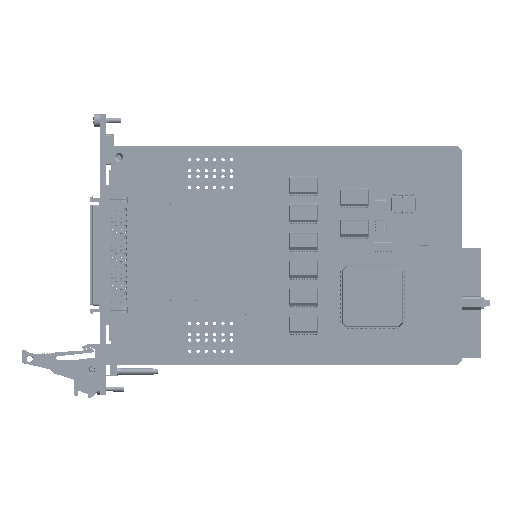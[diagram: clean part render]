
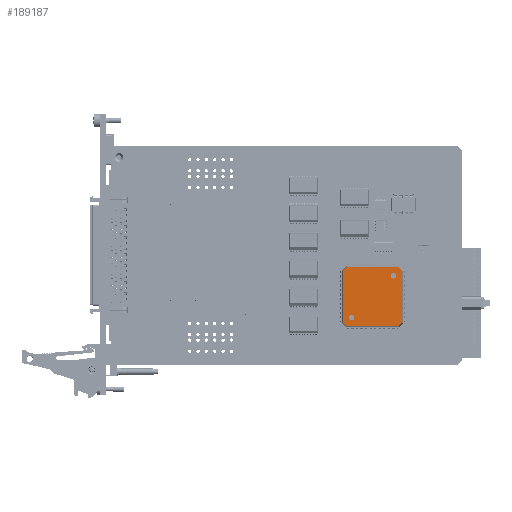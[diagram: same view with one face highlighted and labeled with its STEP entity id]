
A CAD part, top view. The second image highlights one B-rep face of the part: STEP entity #189187.
In plain terms, the highlighted planar face has unit normal (0, 0, 1) as drawn and (0, 1, 0) by its records, which use the part's own axes.
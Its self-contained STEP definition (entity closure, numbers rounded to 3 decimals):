
#4002 = EDGE_CURVE ( 'NONE', #305686, #128413, #197833, .T. ) ;
#13152 = ORIENTED_EDGE ( 'NONE', *, *, #44391, .T. ) ;
#16692 = DIRECTION ( 'NONE',  ( 0., 0., 1. ) ) ;
#17006 = CARTESIAN_POINT ( 'NONE',  ( -11.678, 1.7, -13.678 ) ) ;
#19780 = DIRECTION ( 'NONE',  ( 0., 0., -1. ) ) ;
#21106 = LINE ( 'NONE', #396002, #188096 ) ;
#21950 = CARTESIAN_POINT ( 'NONE',  ( -11.678, 1.7, 13.678 ) ) ;
#22378 = CARTESIAN_POINT ( 'NONE',  ( 11.678, 1.7, -13.678 ) ) ;
#24101 = EDGE_CURVE ( 'NONE', #114825, #245106, #248828, .T. ) ;
#34202 = FACE_BOUND ( 'NONE', #70608, .T. ) ;
#43430 = CARTESIAN_POINT ( 'NONE',  ( -9.544, 1.7, 9.544 ) ) ;
#44010 = CARTESIAN_POINT ( 'NONE',  ( -9.544, 1.7, 10.793 ) ) ;
#44391 = EDGE_CURVE ( 'NONE', #282520, #71726, #86366, .T. ) ;
#48696 = CARTESIAN_POINT ( 'NONE',  ( 13.544, 1.7, 12. ) ) ;
#54018 = CARTESIAN_POINT ( 'NONE',  ( -11.811, 1.7, 13.544 ) ) ;
#54174 = DIRECTION ( 'NONE',  ( 0.707, 0., 0.707 ) ) ;
#57153 = EDGE_LOOP ( 'NONE', ( #322566, #251700, #121603, #290556, #168426, #405721, #380274, #363011 ) ) ;
#58931 = CARTESIAN_POINT ( 'NONE',  ( 9.544, 1.7, -10.794 ) ) ;
#70608 = EDGE_LOOP ( 'NONE', ( #337781, #13152 ) ) ;
#71307 = DIRECTION ( 'NONE',  ( 0., -1., 0. ) ) ;
#71726 = VERTEX_POINT ( 'NONE', #44010 ) ;
#73186 = VERTEX_POINT ( 'NONE', #336920 ) ;
#75641 = VERTEX_POINT ( 'NONE', #371215 ) ;
#76399 = AXIS2_PLACEMENT_3D ( 'NONE', #419153, #219567, #19780 ) ;
#77060 = DIRECTION ( 'NONE',  ( 0., 0., -1. ) ) ;
#77497 = EDGE_CURVE ( 'NONE', #75641, #305686, #223491, .T. ) ;
#82228 = DIRECTION ( 'NONE',  ( 0., 0., -1. ) ) ;
#86366 = CIRCLE ( 'NONE', #254499, 1.249 ) ;
#86559 = CARTESIAN_POINT ( 'NONE',  ( -9.544, 1.7, 9.544 ) ) ;
#90754 = DIRECTION ( 'NONE',  ( 0., 1., 0. ) ) ;
#95505 = VECTOR ( 'NONE', #255810, 1000. ) ;
#102692 = LINE ( 'NONE', #358851, #279932 ) ;
#106559 = EDGE_CURVE ( 'NONE', #372449, #73186, #371806, .T. ) ;
#107917 = AXIS2_PLACEMENT_3D ( 'NONE', #290348, #90754, #323937 ) ;
#114825 = VERTEX_POINT ( 'NONE', #208796 ) ;
#118986 = VECTOR ( 'NONE', #250435, 1000. ) ;
#120024 = DIRECTION ( 'NONE',  ( 0., 0., -1. ) ) ;
#121603 = ORIENTED_EDGE ( 'NONE', *, *, #263628, .T. ) ;
#128413 = VERTEX_POINT ( 'NONE', #419512 ) ;
#138297 = DIRECTION ( 'NONE',  ( 1., 0., 0. ) ) ;
#139592 = EDGE_CURVE ( 'NONE', #71726, #282520, #345399, .T. ) ;
#154879 = PLANE ( 'NONE',  #107917 ) ;
#159133 = DIRECTION ( 'NONE',  ( -1., 0., 0. ) ) ;
#168426 = ORIENTED_EDGE ( 'NONE', *, *, #77497, .T. ) ;
#183006 = CARTESIAN_POINT ( 'NONE',  ( -13.544, 1.7, 12. ) ) ;
#188096 = VECTOR ( 'NONE', #429611, 1000. ) ;
#189187 = ADVANCED_FACE ( 'NONE', ( #34202, #378410, #388847 ), #154879, .T. ) ;
#191839 = CARTESIAN_POINT ( 'NONE',  ( -9.544, 1.7, 8.296 ) ) ;
#197833 = LINE ( 'NONE', #304442, #406487 ) ;
#198647 = LINE ( 'NONE', #183006, #276900 ) ;
#208796 = CARTESIAN_POINT ( 'NONE',  ( 9.544, 1.7, -8.294 ) ) ;
#215239 = LINE ( 'NONE', #48696, #382018 ) ;
#219567 = DIRECTION ( 'NONE',  ( 0., -1., 0. ) ) ;
#223491 = LINE ( 'NONE', #21950, #400797 ) ;
#228242 = EDGE_CURVE ( 'NONE', #128413, #410907, #21106, .T. ) ;
#228620 = EDGE_CURVE ( 'NONE', #305060, #75641, #198647, .T. ) ;
#232651 = AXIS2_PLACEMENT_3D ( 'NONE', #271034, #71307, #304546 ) ;
#239716 = EDGE_CURVE ( 'NONE', #410907, #372449, #215239, .T. ) ;
#245106 = VERTEX_POINT ( 'NONE', #58931 ) ;
#248828 = CIRCLE ( 'NONE', #232651, 1.25 ) ;
#250435 = DIRECTION ( 'NONE',  ( -0.707, 0., 0.707 ) ) ;
#251700 = ORIENTED_EDGE ( 'NONE', *, *, #408132, .T. ) ;
#254499 = AXIS2_PLACEMENT_3D ( 'NONE', #43430, #276730, #77060 ) ;
#255810 = DIRECTION ( 'NONE',  ( -0.707, 0., -0.707 ) ) ;
#263628 = EDGE_CURVE ( 'NONE', #268636, #305060, #296410, .T. ) ;
#268636 = VERTEX_POINT ( 'NONE', #284218 ) ;
#271034 = CARTESIAN_POINT ( 'NONE',  ( 9.544, 1.7, -9.544 ) ) ;
#276730 = DIRECTION ( 'NONE',  ( 0., -1., 0. ) ) ;
#276900 = VECTOR ( 'NONE', #16692, 1000. ) ;
#279932 = VECTOR ( 'NONE', #159133, 1000. ) ;
#282520 = VERTEX_POINT ( 'NONE', #191839 ) ;
#284218 = CARTESIAN_POINT ( 'NONE',  ( -11.811, 1.7, -13.544 ) ) ;
#290348 = CARTESIAN_POINT ( 'NONE',  ( 26., 1.7, 0. ) ) ;
#290556 = ORIENTED_EDGE ( 'NONE', *, *, #228620, .T. ) ;
#296410 = LINE ( 'NONE', #17006, #118986 ) ;
#304442 = CARTESIAN_POINT ( 'NONE',  ( -12., 1.7, 13.544 ) ) ;
#304546 = DIRECTION ( 'NONE',  ( 0., 0., -1. ) ) ;
#305060 = VERTEX_POINT ( 'NONE', #380989 ) ;
#305686 = VERTEX_POINT ( 'NONE', #54018 ) ;
#307045 = CIRCLE ( 'NONE', #76399, 1.25 ) ;
#318203 = CARTESIAN_POINT ( 'NONE',  ( 13.544, 1.7, -11.811 ) ) ;
#319752 = DIRECTION ( 'NONE',  ( 0., -1., 0. ) ) ;
#322566 = ORIENTED_EDGE ( 'NONE', *, *, #106559, .T. ) ;
#323937 = DIRECTION ( 'NONE',  ( 0., 0., 1. ) ) ;
#336920 = CARTESIAN_POINT ( 'NONE',  ( 11.811, 1.7, -13.544 ) ) ;
#337781 = ORIENTED_EDGE ( 'NONE', *, *, #139592, .T. ) ;
#341129 = AXIS2_PLACEMENT_3D ( 'NONE', #86559, #319752, #120024 ) ;
#345399 = CIRCLE ( 'NONE', #341129, 1.249 ) ;
#353834 = EDGE_CURVE ( 'NONE', #245106, #114825, #307045, .T. ) ;
#358851 = CARTESIAN_POINT ( 'NONE',  ( -12., 1.7, -13.544 ) ) ;
#363011 = ORIENTED_EDGE ( 'NONE', *, *, #239716, .T. ) ;
#368051 = EDGE_LOOP ( 'NONE', ( #430954, #375043 ) ) ;
#371215 = CARTESIAN_POINT ( 'NONE',  ( -13.544, 1.7, 11.811 ) ) ;
#371806 = LINE ( 'NONE', #22378, #95505 ) ;
#372449 = VERTEX_POINT ( 'NONE', #318203 ) ;
#375043 = ORIENTED_EDGE ( 'NONE', *, *, #353834, .T. ) ;
#378410 = FACE_OUTER_BOUND ( 'NONE', #57153, .T. ) ;
#380274 = ORIENTED_EDGE ( 'NONE', *, *, #228242, .T. ) ;
#380989 = CARTESIAN_POINT ( 'NONE',  ( -13.544, 1.7, -11.811 ) ) ;
#382018 = VECTOR ( 'NONE', #82228, 1000. ) ;
#388847 = FACE_BOUND ( 'NONE', #368051, .T. ) ;
#396002 = CARTESIAN_POINT ( 'NONE',  ( 11.678, 1.7, 13.678 ) ) ;
#400797 = VECTOR ( 'NONE', #54174, 1000. ) ;
#405721 = ORIENTED_EDGE ( 'NONE', *, *, #4002, .T. ) ;
#406487 = VECTOR ( 'NONE', #138297, 1000. ) ;
#408132 = EDGE_CURVE ( 'NONE', #73186, #268636, #102692, .T. ) ;
#410907 = VERTEX_POINT ( 'NONE', #421243 ) ;
#419153 = CARTESIAN_POINT ( 'NONE',  ( 9.544, 1.7, -9.544 ) ) ;
#419512 = CARTESIAN_POINT ( 'NONE',  ( 11.811, 1.7, 13.544 ) ) ;
#421243 = CARTESIAN_POINT ( 'NONE',  ( 13.544, 1.7, 11.811 ) ) ;
#429611 = DIRECTION ( 'NONE',  ( 0.707, 0., -0.707 ) ) ;
#430954 = ORIENTED_EDGE ( 'NONE', *, *, #24101, .T. ) ;
